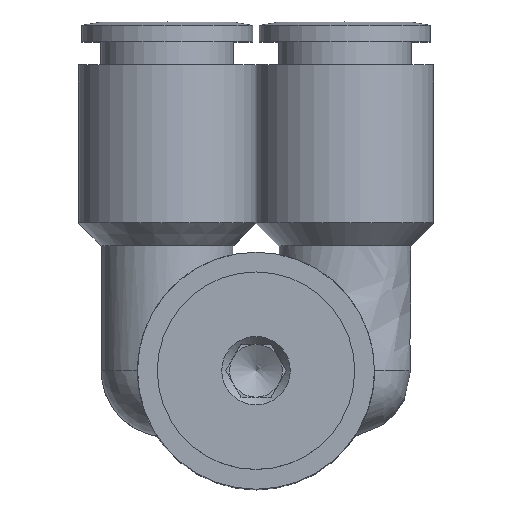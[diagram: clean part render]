
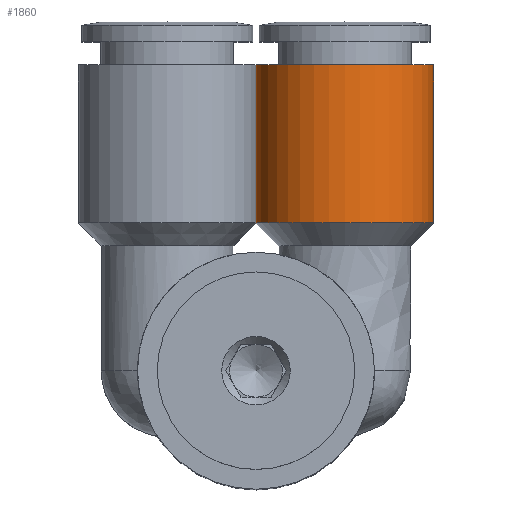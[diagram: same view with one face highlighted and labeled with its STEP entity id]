
A CAD part, top view. The second image highlights one B-rep face of the part: STEP entity #1860.
In plain terms, the highlighted free-form (B-spline) face has degree [1, 2] with [2, 9] control points.
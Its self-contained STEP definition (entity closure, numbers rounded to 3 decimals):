
#1795=CARTESIAN_POINT('',(0.,11.25,17.0));
#1796=VERTEX_POINT('',#1795);
#1797=CARTESIAN_POINT('',(6.75,11.25,17.0));
#1798=DIRECTION('',(0.0,-1.0,0.0));
#1799=DIRECTION('',(1.0,0.0,0.0));
#1800=AXIS2_PLACEMENT_3D('',#1797,#1798,#1799);
#1801=CIRCLE('',#1800,6.75);
#1802=EDGE_CURVE('',#1796,#1796,#1801,.T.);
#1810=CARTESIAN_POINT('',(0.,11.25,17.0));
#1811=CARTESIAN_POINT('',(0.,23.25,17.0));
#1812=CARTESIAN_POINT('',(0.,11.25,10.25));
#1813=CARTESIAN_POINT('',(0.,23.25,10.25));
#1814=CARTESIAN_POINT('',(6.75,11.25,10.25));
#1815=CARTESIAN_POINT('',(6.75,23.25,10.25));
#1816=CARTESIAN_POINT('',(13.5,11.25,10.25));
#1817=CARTESIAN_POINT('',(13.5,23.25,10.25));
#1818=CARTESIAN_POINT('',(13.5,11.25,17.0));
#1819=CARTESIAN_POINT('',(13.5,23.25,17.0));
#1820=CARTESIAN_POINT('',(13.5,11.25,23.75));
#1821=CARTESIAN_POINT('',(13.5,23.25,23.75));
#1822=CARTESIAN_POINT('',(6.75,11.25,23.75));
#1823=CARTESIAN_POINT('',(6.75,23.25,23.75));
#1824=CARTESIAN_POINT('',(0.,11.25,23.75));
#1825=CARTESIAN_POINT('',(0.,23.25,23.75));
#1826=CARTESIAN_POINT('',(0.,11.25,17.0));
#1827=CARTESIAN_POINT('',(0.,23.25,17.0));
#1835=(BOUNDED_SURFACE()B_SPLINE_SURFACE(1,2,((#1810,#1812,#1814,#1816,#1818,#1820,#1822,#1824,#1826),(#1811,#1813,#1815,#1817,#1819,#1821,#1823,#1825,#1827)),.UNSPECIFIED.,.F.,.T.,.U.)B_SPLINE_SURFACE_WITH_KNOTS((2,2),(3,2,2,2,3),(-0.889,0.889),(0.0,10.603,21.206,31.809,42.412),.UNSPECIFIED.)GEOMETRIC_REPRESENTATION_ITEM()RATIONAL_B_SPLINE_SURFACE(((1.0,0.707,1.0,0.707,1.0,0.707,1.0,0.707,1.0),(1.0,0.707,1.0,0.707,1.0,0.707,1.0,0.707,1.0)))REPRESENTATION_ITEM('')SURFACE());
#1836=CARTESIAN_POINT('',(0.,23.25,17.0));
#1837=VERTEX_POINT('',#1836);
#1838=CARTESIAN_POINT('',(6.75,23.25,17.0));
#1839=DIRECTION('',(0.0,-1.0,0.0));
#1840=DIRECTION('',(1.0,0.0,0.0));
#1841=AXIS2_PLACEMENT_3D('',#1838,#1839,#1840);
#1842=CIRCLE('',#1841,6.75);
#1843=EDGE_CURVE('',#1837,#1837,#1842,.T.);
#1844=ORIENTED_EDGE('',*,*,#1843,.T.);
#1845=CARTESIAN_POINT('',(0.,23.25,17.0));
#1846=DIRECTION('',(0.0,-1.0,0.0));
#1847=VECTOR('',#1846,12.);
#1848=LINE('',#1845,#1847);
#1849=EDGE_CURVE('',#1837,#1796,#1848,.T.);
#1850=ORIENTED_EDGE('',*,*,#1849,.T.);
#1851=ORIENTED_EDGE('',*,*,#1802,.F.);
#1852=CARTESIAN_POINT('',(0.,23.25,17.0));
#1853=DIRECTION('',(0.0,-1.0,0.0));
#1854=VECTOR('',#1853,12.);
#1855=LINE('',#1852,#1854);
#1856=EDGE_CURVE('',#1837,#1796,#1855,.T.);
#1857=ORIENTED_EDGE('',*,*,#1856,.F.);
#1858=EDGE_LOOP('',(#1844,#1850,#1851,#1857));
#1859=FACE_OUTER_BOUND('',#1858,.T.);
#1860=ADVANCED_FACE('',(#1859),#1835,.T.);
